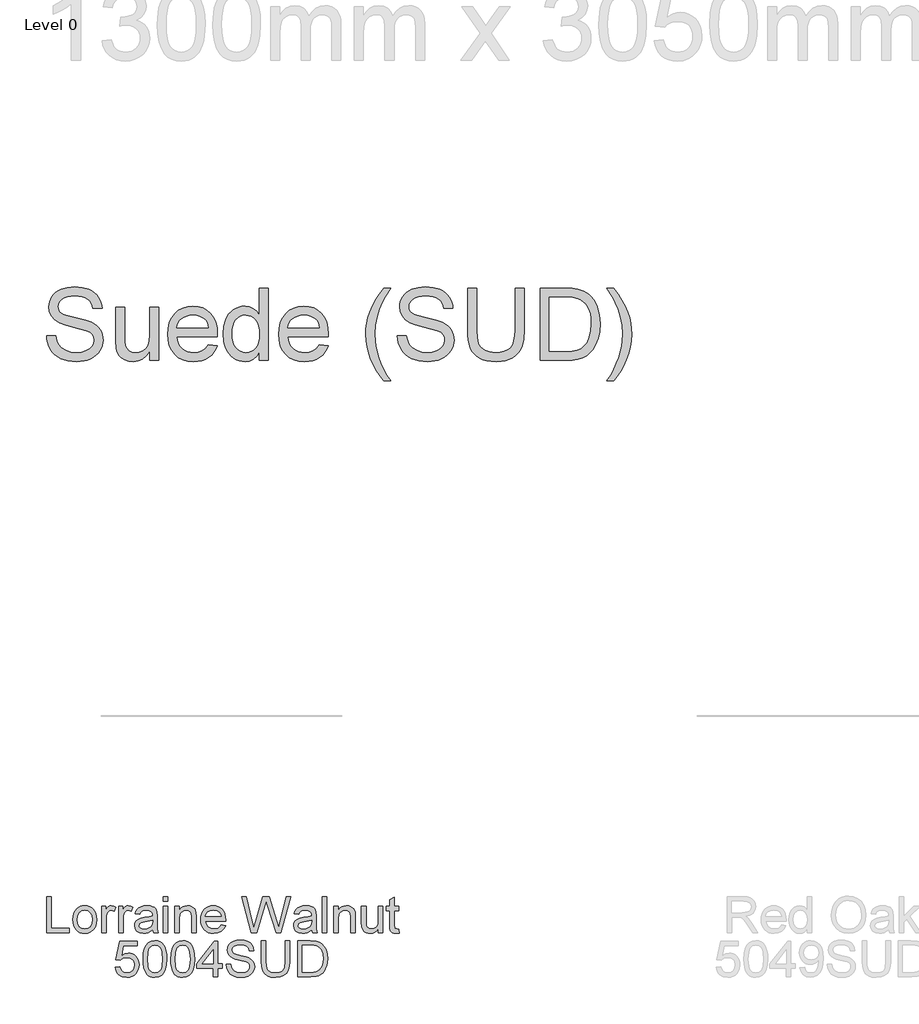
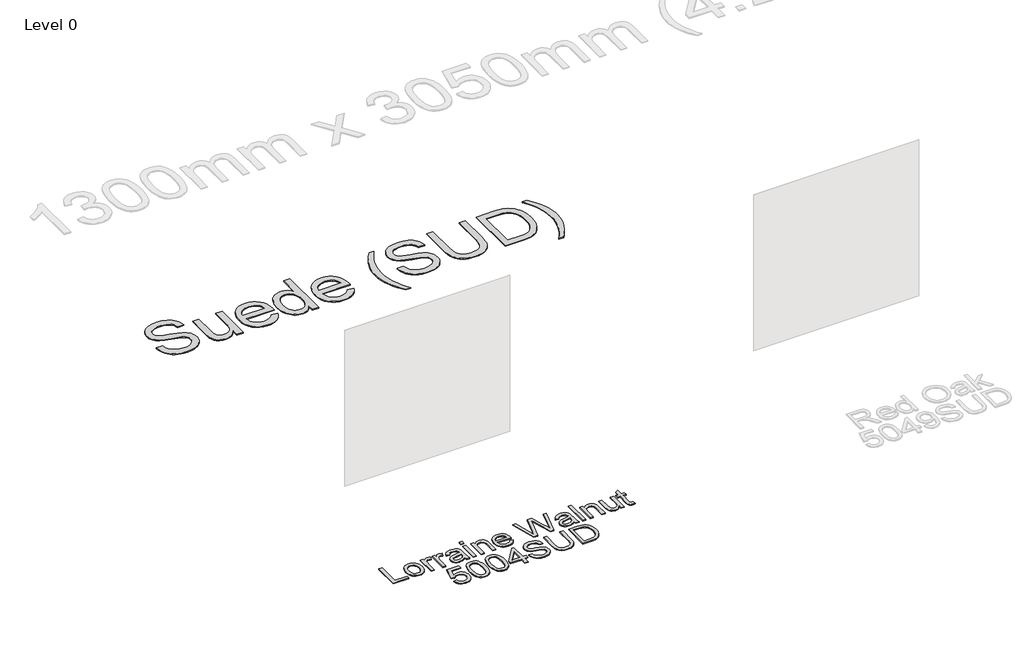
# One storey, part 13 of 43: 2 proxies.
"""IFC4 building model written with IfcOpenShell, lengths in millimetres."""

from ifc_helpers import new_model, si_unit, origin, origin_with_axes, place, context, project, spatial, polyline, outline, extrude, element, save

model = new_model("IFC4")

# Units and contexts
model_context = context("Model", 3, world=origin())
ifc_project = project(units=[si_unit("LENGTHUNIT", "METRE", prefix="MILLI")], contexts=[model_context])

# Site, building, storey
site = spatial("IfcSite", under=ifc_project)
building = spatial("IfcBuilding", under=site)
storey = spatial("IfcBuildingStorey", under=building, Name="Level 0", Elevation=0.0)

# Proxies
placement = place(None, origin())
element("IfcBuildingElementProxy", 1, Name="300mm Arial", ObjectType="300mm Arial", at=placement, inside=storey, context=model_context, shape_type="SweptSolid", body=[
    extrude(outline(polyline([(-10903.3504789, -7002.860494), (-10903.3504789, -6701.4915635), (-10865.6793626, -6701.4915635), (-10865.6793626, -6965.1893777), (-10714.9948973, -6965.1893777), (-10714.9948973, -7002.860494), (-10903.3504789, -7002.860494)])), origin_with_axes(), (0.0, 0.0, 1.0), 10.0),
    extrude(outline(polyline([(-10686.7415601, -6892.2015898), (-10684.7044136, -6863.5389839), (-10678.5929739, -6838.8403064), (-10668.4072412, -6818.1055575), (-10654.1472153, -6801.334737), (-10639.7906205, -6790.6155754), (-10623.9441035, -6782.9590314), (-10606.6076645, -6778.3651049), (-10587.7813034, -6776.8337961), (-10566.9982699, -6778.698498), (-10548.2063978, -6784.2926036), (-10531.4056869, -6793.6161129), (-10516.5961373, -6806.669026), (-10504.5089145, -6823.0098843), (-10495.875184, -6842.1972296), (-10490.6949456, -6864.2310619), (-10488.9681995, -6889.1113811), (-10492.0216201, -6927.1687735), (-10501.1818817, -6956.1394806), (-10516.1822701, -6977.8353213), (-10536.7560707, -6994.0681143), (-10561.1926322, -7004.1940662), (-10587.7813034, -7007.5693835), (-10608.8678395, -7005.7115794), (-10627.8344556, -7000.1381672), (-10644.6811517, -6990.8491468), (-10659.4079279, -6977.8445183), (-10671.366392, -6961.3450108), (-10679.908152, -6941.5713536), (-10685.0332081, -6918.5235466), (-10686.7415601, -6892.2015898)]), holes=[polyline([(-10649.0704438, -6892.1280134), (-10644.7110422, -6926.2214773), (-10631.6328372, -6950.5108861), (-10611.9511505, -6965.0514219), (-10587.7813034, -6969.8982672), (-10563.7218209, -6965.0238308), (-10544.0769224, -6950.4005215), (-10530.9987174, -6925.789216), (-10526.6393158, -6890.950791), (-10531.0263086, -6857.8506085), (-10544.187287, -6833.8922936), (-10563.8597767, -6819.3517577), (-10587.7813034, -6814.5049125), (-10611.9511505, -6819.3333636), (-10631.6328372, -6833.8187172), (-10644.7110422, -6858.0529436), (-10649.0704438, -6892.1280134)])]), origin_with_axes(), (0.0, 0.0, 1.0), 10.0),
    extrude(outline(polyline([(-10446.5881937, -7002.860494), (-10446.5881937, -6781.5426857), (-10413.6259669, -6781.5426857), (-10413.6259669, -6814.2841833), (-10401.4490728, -6795.3014723), (-10390.228672, -6784.1178596), (-10378.9714829, -6778.654812), (-10366.6842243, -6776.8337961), (-10347.9222425, -6779.7400639), (-10328.8659552, -6788.4588672), (-10341.4475194, -6822.2304343), (-10354.6912713, -6816.4362929), (-10367.9350231, -6814.5049125), (-10379.1830151, -6816.3627165), (-10389.2353906, -6821.9361288), (-10397.3563856, -6830.8020848), (-10402.8102362, -6842.5375205), (-10407.3903671, -6863.5803706), (-10408.9170773, -6886.5362071), (-10408.9170773, -7002.860494), (-10446.5881937, -7002.860494)])), origin_with_axes(), (0.0, 0.0, 1.0), 10.0),
    extrude(outline(polyline([(-10305.3215075, -7002.860494), (-10305.3215075, -6781.5426857), (-10272.3592807, -6781.5426857), (-10272.3592807, -6814.2841833), (-10260.1823867, -6795.3014723), (-10248.9619858, -6784.1178596), (-10237.7047968, -6778.654812), (-10225.4175381, -6776.8337961), (-10206.6555564, -6779.7400639), (-10187.599269, -6788.4588672), (-10200.1808333, -6822.2304343), (-10213.4245851, -6816.4362929), (-10226.6683369, -6814.5049125), (-10237.9163289, -6816.3627165), (-10247.9687045, -6821.9361288), (-10256.0896995, -6830.8020848), (-10261.5435501, -6842.5375205), (-10266.1236809, -6863.5803706), (-10267.6503912, -6886.5362071), (-10267.6503912, -7002.860494), (-10305.3215075, -7002.860494)])), origin_with_axes(), (0.0, 0.0, 1.0), 10.0),
    extrude(outline(polyline([(-10022.7881352, -6974.6071568), (-10040.7867618, -6990.0398064), (-10059.3188173, -7000.1381672), (-10078.807366, -7005.7115794), (-10099.6754722, -7007.5693835), (-10131.1569739, -7003.0996173), (-10154.3795249, -6989.6903186), (-10168.6993315, -6969.3280501), (-10173.4726004, -6943.9993748), (-10171.6699787, -6928.3827841), (-10166.2621133, -6914.2009331), (-10157.9203891, -6902.0608273), (-10147.3161906, -6892.5694718), (-10120.9390515, -6880.2086368), (-10088.3447067, -6874.5432541), (-10049.8274619, -6868.5835657), (-10023.0088644, -6861.5938078), (-10022.7881352, -6853.2060983), (-10025.3817033, -6836.3938912), (-10033.1624075, -6825.3942195), (-10050.5632258, -6817.2272392), (-10074.8066493, -6814.5049125), (-10097.247451, -6816.3167313), (-10112.919224, -6821.7521878), (-10123.606196, -6831.8045633), (-10131.0925946, -6847.4671392), (-10168.7637109, -6842.7582497), (-10162.2246084, -6822.156858), (-10152.4665385, -6805.9700502), (-10138.5789932, -6793.590821), (-10119.6514645, -6784.4121652), (-10096.50249, -6778.7283884), (-10069.950607, -6776.8337961), (-10044.4839759, -6778.5076592), (-10024.2964514, -6783.5292485), (-10009.0753338, -6791.0800264), (-9998.5079235, -6800.3414556), (-9991.4997715, -6811.7917827), (-9986.9564289, -6825.9092543), (-9985.1170189, -6858.8714811), (-9985.1170189, -6905.7396473), (-9983.2040325, -6971.1858542), (-9975.6992398, -7002.860494), (-10013.3703561, -7002.860494), (-10022.7881352, -6974.6071568)]), holes=[polyline([(-10022.7881352, -6899.2649241), (-10083.5622408, -6910.8164188), (-10115.9726446, -6916.9232599), (-10130.6511362, -6926.8560738), (-10135.8014841, -6941.3506244), (-10132.9963839, -6952.5526311), (-10124.5810833, -6961.7312869), (-10110.7395232, -6967.8565221), (-10091.6556447, -6969.8982672), (-10071.422135, -6967.64499), (-10053.54307, -6960.8851583), (-10039.0485194, -6950.9247533), (-10028.9685527, -6939.069756), (-10024.4987865, -6926.8560738), (-10023.0088644, -6909.933502), (-10022.7881352, -6899.2649241)])]), origin_with_axes(), (0.0, 0.0, 1.0), 10.0),
    extrude(outline(polyline([(-9933.319234, -6739.1626798), (-9933.319234, -6701.4915635), (-9895.6481177, -6701.4915635), (-9895.6481177, -6739.1626798), (-9933.319234, -6739.1626798)])), origin_with_axes(), (0.0, 0.0, 1.0), 10.0),
    extrude(outline(polyline([(-9933.319234, -7002.860494), (-9933.319234, -6781.5426857), (-9895.6481177, -6781.5426857), (-9895.6481177, -7002.860494), (-9933.319234, -7002.860494)])), origin_with_axes(), (0.0, 0.0, 1.0), 10.0),
    extrude(outline(polyline([(-9839.1414432, -7002.860494), (-9839.1414432, -6781.5426857), (-9801.4703269, -6781.5426857), (-9801.4703269, -6812.4447733), (-9788.3829249, -6796.8649708), (-9772.6651667, -6785.7365404), (-9754.3170522, -6779.0594822), (-9733.3385814, -6776.8337961), (-9714.7697377, -6778.6272209), (-9697.7643925, -6784.0074951), (-9683.5825416, -6792.303234), (-9673.4841808, -6802.8430532), (-9662.1902035, -6830.5445674), (-9660.2036408, -6866.964885), (-9660.2036408, -7002.860494), (-9697.8747571, -7002.860494), (-9697.8747571, -6872.0416565), (-9702.2157646, -6838.7115477), (-9708.2214382, -6828.7879309), (-9717.5564438, -6821.0900002), (-9729.5218057, -6816.1511844), (-9743.4185481, -6814.5049125), (-9765.4822707, -6818.2021265), (-9784.2902377, -6829.2937687), (-9791.8065267, -6838.3482643), (-9797.1753046, -6850.7228949), (-9801.4703269, -6885.4325611), (-9801.4703269, -7002.860494), (-9839.1414432, -7002.860494)])), origin_with_axes(), (0.0, 0.0, 1.0), 10.0),
    extrude(outline(polyline([(-9453.4539595, -6936.9360404), (-9416.5186072, -6941.64493), (-9429.8267383, -6969.4752029), (-9451.0627265, -6990.2789297), (-9479.7483251, -7003.2467701), (-9515.4052875, -7007.5693835), (-9538.7795897, -7005.7046817), (-9559.6063092, -7000.1105761), (-9577.8854458, -6990.7870668), (-9593.6169996, -6977.7341537), (-9606.2675417, -6961.3151204), (-9615.3036432, -6941.8932503), (-9620.7253042, -6919.4685435), (-9622.5325245, -6894.0409998), (-9620.7069101, -6867.7512327), (-9615.2300668, -6844.5792656), (-9606.1019948, -6824.5250983), (-9593.322694, -6807.5887309), (-9577.6325269, -6794.133447), (-9559.7718561, -6784.5225298), (-9539.7406814, -6778.7559796), (-9517.539003, -6776.8337961), (-9496.0523952, -6778.751381), (-9476.6213281, -6784.5041357), (-9459.2458016, -6794.0920602), (-9443.9258158, -6807.5151545), (-9431.4201272, -6824.4147337), (-9422.4874925, -6844.4321128), (-9417.1279117, -6867.5672917), (-9415.3413848, -6893.8202706), (-9415.562114, -6903.9738137), (-9584.8614081, -6903.9738137), (-9578.3406998, -6932.1719686), (-9563.1931586, -6952.902119), (-9541.3317711, -6965.6492302), (-9514.6695235, -6969.8982672), (-9494.6199547, -6967.9300985), (-9477.7341712, -6962.0255925), (-9464.0121727, -6951.8168672), (-9453.4539595, -6936.9360404)]), holes=[polyline([(-9584.8614081, -6866.3026974), (-9453.0125011, -6866.3026974), (-9458.1076667, -6846.4002814), (-9468.0956629, -6832.1632482), (-9490.058218, -6818.9194964), (-9517.6861558, -6814.5049125), (-9543.0792105, -6818.0273826), (-9564.0760754, -6828.5947929), (-9578.6717936, -6845.0667092), (-9584.8614081, -6866.3026974)])]), origin_with_axes(), (0.0, 0.0, 1.0), 10.0),
    extrude(outline(polyline([(-9201.30764, -7002.860494), (-9283.4924777, -6701.4915635), (-9244.644139, -6701.4915635), (-9196.9666324, -6899.5592297), (-9182.2513526, -6960.7012173), (-9166.5060032, -6906.622564), (-9106.7619672, -6701.4915635), (-9050.7703276, -6701.4915635), (-9007.3602521, -6850.189466), (-8988.7638173, -6905.3717653), (-8975.0602129, -6960.7012173), (-8960.7863915, -6901.3250633), (-8912.6674266, -6701.4915635), (-8873.8190879, -6701.4915635), (-8956.077502, -7002.860494), (-8996.3237923, -7002.860494), (-9068.5758161, -6770.359073), (-9078.6557828, -6737.9118811), (-9089.9865482, -6776.9809489), (-9155.8374254, -7002.860494), (-9201.30764, -7002.860494)])), origin_with_axes(), (0.0, 0.0, 1.0), 10.0),
    extrude(outline(polyline([(-8699.590175, -6974.6071568), (-8717.5888016, -6990.0398064), (-8736.1208571, -7000.1381672), (-8755.6094058, -7005.7115794), (-8776.4775119, -7007.5693835), (-8807.9590137, -7003.0996173), (-8831.1815646, -6989.6903186), (-8845.5013713, -6969.3280501), (-8850.2746402, -6943.9993748), (-8848.4720184, -6928.3827841), (-8843.0641531, -6914.2009331), (-8834.7224288, -6902.0608273), (-8824.1182303, -6892.5694718), (-8797.7410913, -6880.2086368), (-8765.1467465, -6874.5432541), (-8726.6295016, -6868.5835657), (-8699.8109042, -6861.5938078), (-8699.590175, -6853.2060983), (-8702.183743, -6836.3938912), (-8709.9644472, -6825.3942195), (-8727.3652656, -6817.2272392), (-8751.6086891, -6814.5049125), (-8774.0494908, -6816.3167313), (-8789.7212638, -6821.7521878), (-8800.4082357, -6831.8045633), (-8807.8946343, -6847.4671392), (-8845.5657506, -6842.7582497), (-8839.0266482, -6822.156858), (-8829.2685783, -6805.9700502), (-8815.3810329, -6793.590821), (-8796.4535043, -6784.4121652), (-8773.3045297, -6778.7283884), (-8746.7526467, -6776.8337961), (-8721.2860156, -6778.5076592), (-8701.0984911, -6783.5292485), (-8685.8773736, -6791.0800264), (-8675.3099633, -6800.3414556), (-8668.3018113, -6811.7917827), (-8663.7584686, -6825.9092543), (-8661.9190586, -6858.8714811), (-8661.9190586, -6905.7396473), (-8660.0060723, -6971.1858542), (-8652.5012796, -7002.860494), (-8690.1723959, -7002.860494), (-8699.590175, -6974.6071568)]), holes=[polyline([(-8699.590175, -6899.2649241), (-8760.3642806, -6910.8164188), (-8792.7746843, -6916.9232599), (-8807.4531759, -6926.8560738), (-8812.6035239, -6941.3506244), (-8809.7984237, -6952.5526311), (-8801.383123, -6961.7312869), (-8787.541563, -6967.8565221), (-8768.4576845, -6969.8982672), (-8748.2241747, -6967.64499), (-8730.3451098, -6960.8851583), (-8715.8505591, -6950.9247533), (-8705.7705925, -6939.069756), (-8701.3008262, -6926.8560738), (-8699.8109042, -6909.933502), (-8699.590175, -6899.2649241)])]), origin_with_axes(), (0.0, 0.0, 1.0), 10.0),
    extrude(outline(polyline([(-8610.1212737, -7002.860494), (-8610.1212737, -6701.4915635), (-8572.4501574, -6701.4915635), (-8572.4501574, -7002.860494), (-8610.1212737, -7002.860494)])), origin_with_axes(), (0.0, 0.0, 1.0), 10.0),
    extrude(outline(polyline([(-8515.943483, -7002.860494), (-8515.943483, -6781.5426857), (-8478.2723667, -6781.5426857), (-8478.2723667, -6812.4447733), (-8465.1849647, -6796.8649708), (-8449.4672064, -6785.7365404), (-8431.1190919, -6779.0594822), (-8410.1406211, -6776.8337961), (-8391.5717774, -6778.6272209), (-8374.5664322, -6784.0074951), (-8360.3845813, -6792.303234), (-8350.2862205, -6802.8430532), (-8338.9922433, -6830.5445674), (-8337.0056805, -6866.964885), (-8337.0056805, -7002.860494), (-8374.6767968, -7002.860494), (-8374.6767968, -6872.0416565), (-8379.0178044, -6838.7115477), (-8385.0234779, -6828.7879309), (-8394.3584836, -6821.0900002), (-8406.3238454, -6816.1511844), (-8420.2205878, -6814.5049125), (-8442.2843105, -6818.2021265), (-8461.0922775, -6829.2937687), (-8468.6085665, -6838.3482643), (-8473.9773444, -6850.7228949), (-8478.2723667, -6885.4325611), (-8478.2723667, -7002.860494), (-8515.943483, -7002.860494)])), origin_with_axes(), (0.0, 0.0, 1.0), 10.0),
    extrude(outline(polyline([(-8143.9412094, -7002.860494), (-8143.9412094, -6964.8214957), (-8157.5712374, -6983.5236966), (-8173.4453455, -6996.8824116), (-8191.5635337, -7004.8976405), (-8211.9258021, -7007.5693835), (-8230.2739167, -7005.6931853), (-8247.3528383, -7000.0645908), (-8261.681842, -6991.6033049), (-8271.7802028, -6981.2290327), (-8283.0006036, -6953.4907302), (-8285.2078956, -6918.4683643), (-8285.2078956, -6781.5426857), (-8247.5367793, -6781.5426857), (-8247.5367793, -6900.7364521), (-8245.2559109, -6939.1433324), (-8239.7652721, -6951.9548229), (-8230.3566901, -6961.6944987), (-8217.6555642, -6967.8473251), (-8202.2872939, -6969.8982672), (-8186.0361067, -6967.8013398), (-8170.8333833, -6961.5105577), (-8158.2978043, -6951.605335), (-8150.0480506, -6938.6650858), (-8145.4679197, -6920.9423707), (-8143.9412094, -6896.6897502), (-8143.9412094, -6781.5426857), (-8106.2700931, -6781.5426857), (-8106.2700931, -7002.860494), (-8143.9412094, -7002.860494)])), origin_with_axes(), (0.0, 0.0, 1.0), 10.0),
    extrude(outline(polyline([(-7974.4211861, -6971.4433716), (-7969.7122965, -7003.96414), (-7997.8920574, -7007.5693835), (-8015.9734574, -7006.005885), (-8029.4563325, -7001.3153896), (-8038.9844762, -6994.0865084), (-8045.2016819, -6984.9078526), (-8048.6229845, -6969.1441091), (-8049.7634187, -6942.1599648), (-8049.7634187, -6819.213802), (-8078.0167559, -6819.213802), (-8078.0167559, -6781.5426857), (-8049.7634187, -6781.5426857), (-8049.7634187, -6727.758338), (-8012.0923024, -6705.6118419), (-8012.0923024, -6781.5426857), (-7974.4211861, -6781.5426857), (-7974.4211861, -6819.213802), (-8012.0923024, -6819.213802), (-8012.0923024, -6941.0563188), (-8010.1057396, -6960.4804881), (-8003.6678047, -6967.3598814), (-7990.828723, -6969.8982672), (-7974.4211861, -6971.4433716)])), origin_with_axes(), (0.0, 0.0, 1.0), 10.0),
    extrude(outline(polyline([(-10333.5748447, -7288.7338254), (-10295.9037284, -7284.0249358), (-10288.9875469, -7306.6404815), (-10276.9210175, -7322.8364863), (-10259.7593224, -7332.5761621), (-10237.557644, -7335.8227207), (-10210.5551055, -7331.3069693), (-10190.3215958, -7317.7597148), (-10177.6848493, -7296.7444558), (-10173.4726004, -7269.8246908), (-10177.4181348, -7244.4776213), (-10189.254738, -7225.0902402), (-10209.0743805, -7212.7845875), (-10236.9690328, -7208.6827032), (-10255.2435709, -7210.3197781), (-10270.0416242, -7215.2310027), (-10291.1948389, -7232.2271509), (-10328.8659552, -7227.5182614), (-10295.9037284, -7072.1249066), (-10149.9281527, -7072.1249066), (-10149.9281527, -7109.7960229), (-10265.4430992, -7109.7960229), (-10281.5563306, -7192.790201), (-10254.6457627, -7176.4562404), (-10226.4476077, -7171.0115869), (-10208.1017925, -7172.6992456), (-10191.2504978, -7177.7622215), (-10175.8937238, -7186.2005148), (-10162.0314704, -7198.0141254), (-10150.5558514, -7212.4810848), (-10142.3589807, -7228.8794248), (-10137.4408583, -7247.2091452), (-10135.8014841, -7267.470246), (-10141.7059901, -7305.1413624), (-10149.0866227, -7321.9351754), (-10159.4195082, -7337.3678251), (-10175.0728871, -7353.1729553), (-10193.3382282, -7364.4623341), (-10214.2155314, -7371.2359613), (-10237.7047968, -7373.4938371), (-10274.7045285, -7367.6904986), (-10290.3831992, -7360.4363255), (-10304.1810733, -7350.2804832), (-10315.6612908, -7337.7288093), (-10324.3869919, -7323.2871418), (-10333.5748447, -7288.7338254)])), origin_with_axes(), (0.0, 0.0, 1.0), 10.0),
    extrude(outline(polyline([(-10102.8392574, -7220.5285035), (-10100.0709453, -7172.2899768), (-10091.7660093, -7133.8187172), (-10078.0072227, -7104.5261133), (-10058.8773589, -7083.8235541), (-10034.2384623, -7071.5179013), (-10003.9525771, -7067.4160171), (-9980.7392232, -7069.8440382), (-9959.9538904, -7077.1281017), (-9942.5714662, -7088.983099), (-9929.5668376, -7105.1239216), (-9919.7443884, -7125.4126136), (-9911.9085019, -7149.7112194), (-9906.776548, -7180.5673217), (-9905.0658967, -7220.5285035), (-9907.8066176, -7268.4911186), (-9916.0287802, -7306.8704077), (-9929.7047934, -7336.1906027), (-9948.807066, -7356.9759355), (-9973.5011449, -7369.3643617), (-10003.9525771, -7373.4938371), (-10024.7011216, -7371.7004123), (-10043.0952213, -7366.3201381), (-10059.1348763, -7357.3530145), (-10072.8200866, -7344.7990414), (-10085.9534738, -7322.1053209), (-10095.3344647, -7293.828991), (-10100.9630592, -7259.9700519), (-10102.8392574, -7220.5285035)]), holes=[polyline([(-10065.1681411, -7220.4549271), (-10060.7535571, -7279.7115194), (-10055.2353272, -7299.9795181), (-10047.5098053, -7314.0073184), (-10027.7913303, -7330.3688702), (-10003.9525771, -7335.8227207), (-9980.1138238, -7330.3504761), (-9960.3953488, -7313.933742), (-9952.6698269, -7299.8829491), (-9947.151597, -7279.6195489), (-9942.7370131, -7220.4549271), (-9947.0044442, -7162.5319069), (-9952.3387331, -7142.3305869), (-9959.8067376, -7127.9693935), (-9979.4884244, -7110.8076984), (-10004.3940354, -7105.0871334), (-10027.9752713, -7110.1271167), (-10046.9211941, -7125.2470667), (-10054.9042334, -7140.8820515), (-10060.6064043, -7161.9616898), (-10065.1681411, -7220.4549271)])]), origin_with_axes(), (0.0, 0.0, 1.0), 10.0),
    extrude(outline(polyline([(-9872.10367, -7220.5285035), (-9869.335358, -7172.2899768), (-9861.0304219, -7133.8187172), (-9847.2716353, -7104.5261133), (-9828.1417716, -7083.8235541), (-9803.5028749, -7071.5179013), (-9773.2169897, -7067.4160171), (-9750.0036358, -7069.8440382), (-9729.2183031, -7077.1281017), (-9711.8358788, -7088.983099), (-9698.8312503, -7105.1239216), (-9689.008801, -7125.4126136), (-9681.1729145, -7149.7112194), (-9676.0409607, -7180.5673217), (-9674.3303094, -7220.5285035), (-9677.0710302, -7268.4911186), (-9685.2931928, -7306.8704077), (-9698.969206, -7336.1906027), (-9718.0714786, -7356.9759355), (-9742.7655575, -7369.3643617), (-9773.2169897, -7373.4938371), (-9793.9655342, -7371.7004123), (-9812.359634, -7366.3201381), (-9828.399289, -7357.3530145), (-9842.0844992, -7344.7990414), (-9855.2178864, -7322.1053209), (-9864.5988773, -7293.828991), (-9870.2274718, -7259.9700519), (-9872.10367, -7220.5285035)]), holes=[polyline([(-9834.4325537, -7220.4549271), (-9830.0179697, -7279.7115194), (-9824.4997398, -7299.9795181), (-9816.7742179, -7314.0073184), (-9797.055743, -7330.3688702), (-9773.2169897, -7335.8227207), (-9749.3782364, -7330.3504761), (-9729.6597614, -7313.933742), (-9721.9342396, -7299.8829491), (-9716.4160096, -7279.6195489), (-9712.0014257, -7220.4549271), (-9716.2688568, -7162.5319069), (-9721.6031458, -7142.3305869), (-9729.0711503, -7127.9693935), (-9748.752837, -7110.8076984), (-9773.6584481, -7105.0871334), (-9797.239684, -7110.1271167), (-9816.1856067, -7125.2470667), (-9824.168646, -7140.8820515), (-9829.8708169, -7161.9616898), (-9834.4325537, -7220.4549271)])]), origin_with_axes(), (0.0, 0.0, 1.0), 10.0),
    extrude(outline(polyline([(-9518.9369546, -7368.7849475), (-9518.9369546, -7298.1516044), (-9655.4947512, -7298.1516044), (-9655.4947512, -7260.4804881), (-9509.5191755, -7072.1249066), (-9481.2658383, -7072.1249066), (-9481.2658383, -7260.4804881), (-9443.594722, -7260.4804881), (-9443.594722, -7298.1516044), (-9481.2658383, -7298.1516044), (-9481.2658383, -7368.7849475), (-9518.9369546, -7368.7849475)]), holes=[polyline([(-9518.9369546, -7260.4804881), (-9518.9369546, -7144.0826249), (-9609.1416198, -7260.4804881), (-9518.9369546, -7260.4804881)])]), origin_with_axes(), (0.0, 0.0, 1.0), 10.0),
    extrude(outline(polyline([(-9410.6324952, -7265.1893777), (-9372.9613789, -7265.1893777), (-9368.6387655, -7286.0942721), (-9360.8212731, -7302.8972822), (-9348.6259849, -7316.2330045), (-9331.1699843, -7326.7360355), (-9309.8328286, -7333.5510494), (-9285.9940753, -7335.8227207), (-9265.0064074, -7334.1028724), (-9246.6307018, -7328.9433274), (-9231.740678, -7320.7763471), (-9221.2100559, -7310.0341929), (-9214.9468649, -7297.700949), (-9212.8591346, -7284.7606998), (-9214.4226331, -7272.1515444), (-9219.1131285, -7261.2530403), (-9228.6412722, -7251.9548229), (-9244.7177154, -7244.1465276), (-9299.5689209, -7229.7623415), (-9335.5753712, -7220.2433949), (-9358.6139811, -7211.1843008), (-9377.3667658, -7198.510766), (-9390.6565029, -7183.1516928), (-9398.5751628, -7165.4381747), (-9401.2147162, -7145.7013056), (-9397.9497634, -7123.637583), (-9388.1549053, -7103.0637824), (-9372.0876592, -7085.6261758), (-9350.0055424, -7072.9710352), (-9323.4996447, -7065.2731044), (-9294.1610556, -7062.7071275), (-9262.3760512, -7065.3926661), (-9234.5641723, -7073.4492818), (-9211.7187004, -7086.7114277), (-9194.8329169, -7105.013557), (-9184.1459449, -7127.2152354), (-9179.8969079, -7152.1760288), (-9217.5680242, -7152.1760288), (-9224.4842057, -7129.6984389), (-9238.9051799, -7113.4748429), (-9261.4379521, -7103.6523936), (-9292.6895276, -7100.3782438), (-9324.6768671, -7103.6156054), (-9346.6210281, -7113.3276901), (-9359.3129569, -7127.6199056), (-9363.5435998, -7144.5976597), (-9360.5453616, -7159.0738162), (-9351.5506468, -7170.7172813), (-9330.2870675, -7181.1283418), (-9290.0407772, -7191.7601314), (-9248.5069, -7201.8584922), (-9223.3805597, -7210.669266), (-9201.9054482, -7224.3360821), (-9186.923454, -7241.2034716), (-9178.1218772, -7261.0874934), (-9175.1880183, -7283.8042066), (-9178.5633356, -7307.0267576), (-9188.6892875, -7328.869751), (-9205.1520068, -7347.668521), (-9227.5376262, -7361.7584014), (-9254.4573912, -7370.5599781), (-9284.5225473, -7373.4938371), (-9321.4303085, -7370.3300519), (-9351.8081642, -7360.8386964), (-9376.0056024, -7344.9829824), (-9394.372111, -7322.7261217), (-9406.162729, -7295.6132187), (-9410.6324952, -7265.1893777)])), origin_with_axes(), (0.0, 0.0, 1.0), 10.0),
    extrude(outline(polyline([(-8920.9079833, -7067.4160171), (-8883.2368669, -7067.4160171), (-8883.2368669, -7241.277048), (-8885.7936468, -7281.9923878), (-8893.4639864, -7313.3451308), (-8907.7929901, -7337.533372), (-8930.3257623, -7356.7552063), (-8961.1174853, -7369.3091794), (-9000.2233414, -7373.4938371), (-9038.4738719, -7369.8518053), (-9069.0540627, -7358.92571), (-9091.973111, -7341.0926303), (-9107.2402138, -7316.7296452), (-9115.8210613, -7284.052527), (-9118.6813439, -7241.277048), (-9118.6813439, -7067.4160171), (-9081.0102276, -7067.4160171), (-9081.0102276, -7239.9526728), (-9079.1524235, -7273.8070134), (-9073.5790113, -7297.3790523), (-9063.4806505, -7313.7038158), (-9048.0480008, -7325.8163305), (-9027.9248556, -7333.3211232), (-9003.7550086, -7335.8227207), (-8965.4400988, -7330.8747079), (-8951.0972995, -7324.6896919), (-8939.9642706, -7316.0306694), (-8931.6271449, -7303.8537754), (-8925.6720551, -7287.1151446), (-8920.9079833, -7239.9526728), (-8920.9079833, -7067.4160171)])), origin_with_axes(), (0.0, 0.0, 1.0), 10.0),
    extrude(outline(polyline([(-8817.3124134, -7368.7849475), (-8817.3124134, -7067.4160171), (-8713.3489616, -7067.4160171), (-8659.5646139, -7071.7570246), (-8635.5419196, -7080.12634), (-8615.2716217, -7093.3149095), (-8594.4311066, -7116.270746), (-8579.5870681, -7144.8183889), (-8570.7027179, -7178.406015), (-8567.7412679, -7216.4818015), (-8569.7462248, -7248.8278259), (-8575.7610954, -7277.2926953), (-8584.9213571, -7301.5269217), (-8596.3624871, -7321.1810173), (-8609.5326625, -7336.6964405), (-8623.8800603, -7348.5146496), (-8640.3519767, -7357.2794381), (-8659.8957077, -7363.6345996), (-8708.3457664, -7368.7849475), (-8817.3124134, -7368.7849475)]), holes=[polyline([(-8779.6412971, -7331.1138312), (-8712.9810796, -7331.1138312), (-8685.408324, -7329.7526678), (-8664.4942326, -7325.6691777), (-8648.712095, -7319.1024841), (-8636.535201, -7310.2917103), (-8623.447799, -7293.9853408), (-8613.6161527, -7272.8781114), (-8607.4633263, -7246.8780514), (-8605.4123842, -7215.8931903), (-8609.431495, -7174.8375597), (-8621.4888274, -7144.5240833), (-8639.303513, -7123.7019623), (-8660.5946835, -7111.1203981), (-8682.262933, -7106.5954496), (-8714.0111492, -7105.0871334), (-8779.6412971, -7105.0871334), (-8779.6412971, -7331.1138312)])]), origin_with_axes(), (0.0, 0.0, 1.0), 10.0),
])
element("IfcBuildingElementProxy", 2, Name="600mm Arial", ObjectType="600mm Arial", at=placement, inside=storey, context=model_context, shape_type="SweptSolid", body=[
    extrude(outline(polyline([(-10905.7165225, -2032.6809076), (-10830.3742899, -2032.6809076), (-10821.729063, -2074.4906964), (-10806.0940782, -2108.0967167), (-10781.7035019, -2134.7681613), (-10746.7915006, -2155.7742232), (-10704.1171891, -2169.4042512), (-10656.4396825, -2173.9475938), (-10614.4643469, -2170.5078971), (-10577.7129356, -2160.1888072), (-10547.9328881, -2143.8548466), (-10526.8716438, -2122.3705381), (-10514.3452619, -2097.7040503), (-10510.1698013, -2071.8235519), (-10513.2967982, -2046.6052412), (-10522.6777891, -2024.8082329), (-10541.7340764, -2006.2117981), (-10573.8869628, -1990.5952074), (-10683.5893738, -1961.8268354), (-10755.6022743, -1942.7889421), (-10801.6794942, -1924.6707539), (-10839.1850636, -1899.3236844), (-10865.7645378, -1868.6055378), (-10881.6018577, -1833.1785017), (-10886.8809643, -1793.7047636), (-10885.248488, -1771.2685604), (-10880.3510589, -1749.5773183), (-10872.1886771, -1728.6310372), (-10860.7613427, -1708.4297171), (-10846.1978142, -1689.796494), (-10828.6268504, -1673.554504), (-10808.0484513, -1659.7037468), (-10784.4626169, -1648.2442227), (-10731.4508214, -1632.8483612), (-10672.7736431, -1627.7164074), (-10609.2036344, -1633.0874845), (-10553.5798767, -1649.2007159), (-10529.2444827, -1661.202866), (-10507.8889329, -1675.7250077), (-10489.5132272, -1692.7671412), (-10474.1173657, -1712.3292662), (-10461.82091, -1733.8411659), (-10452.7434218, -1756.7326231), (-10446.884901, -1781.0036377), (-10444.2453477, -1806.6542098), (-10519.5875803, -1806.6542098), (-10524.6275637, -1782.6131214), (-10533.4199434, -1761.69903), (-10545.9647194, -1743.9119355), (-10562.2618918, -1729.251838), (-10582.6149632, -1717.7923139), (-10607.3274362, -1709.6069395), (-10636.3993109, -1704.6957148), (-10669.8305872, -1703.05864), (-10704.3287213, -1704.6773207), (-10733.8052661, -1709.5333631), (-10758.2602218, -1717.626767), (-10777.6935881, -1728.9575324), (-10792.5008385, -1742.5783633), (-10803.0774458, -1757.5419635), (-10809.4234102, -1773.8483329), (-10811.5387317, -1791.4974716), (-10810.0396126, -1806.681801), (-10805.5422552, -1820.4497846), (-10798.0466595, -1832.8014226), (-10787.5528256, -1843.7367149), (-10771.034924, -1854.0925931), (-10745.025667, -1864.5588358), (-10664.5330864, -1885.8224152), (-10581.4653319, -1906.0191367), (-10531.2126514, -1923.6406843), (-10488.2624284, -1950.9743165), (-10471.6571549, -1967.0415627), (-10458.2984399, -1984.7090955), (-10448.0299337, -2003.8849445), (-10440.6952865, -2024.4771392), (-10434.8275686, -2069.9105656), (-10436.5152273, -2093.4780059), (-10441.5782033, -2116.3556674), (-10450.0164965, -2138.5435503), (-10461.8301071, -2160.0416544), (-10476.8121013, -2180.0176467), (-10494.7555457, -2197.6391943), (-10515.66044, -2212.9062971), (-10539.5267845, -2225.8189551), (-10565.6602017, -2236.0874613), (-10593.3663145, -2243.4221086), (-10653.4966266, -2249.2898264), (-10692.0368641, -2247.7079338), (-10727.3121489, -2242.9622561), (-10759.322481, -2235.0527932), (-10788.0678604, -2223.9795451), (-10813.7230311, -2209.7241178), (-10836.4627369, -2192.2681172), (-10856.2869779, -2171.6115431), (-10873.1957541, -2147.7543957), (-10886.816585, -2121.4692272), (-10896.77699, -2093.5285896), (-10903.0769692, -2063.9324831), (-10905.7165225, -2032.6809076)])), origin_with_axes(), (0.0, 0.0, 1.0), 10.0),
    extrude(outline(polyline([(-10048.6986265, -2239.8720473), (-10048.6986265, -2163.7940507), (-10075.9586823, -2201.1984526), (-10107.7068985, -2227.9158825), (-10143.9432751, -2243.9463404), (-10184.6678119, -2249.2898264), (-10221.3640409, -2245.5374301), (-10255.5218842, -2234.280241), (-10284.1798916, -2217.3576692), (-10304.3766132, -2196.6091247), (-10317.9698529, -2171.409208), (-10326.8174149, -2141.1325198), (-10331.2319988, -2071.0877879), (-10331.2319988, -1797.2364307), (-10255.8897662, -1797.2364307), (-10255.8897662, -2035.6239636), (-10254.749332, -2083.3014702), (-10251.3280295, -2112.4377242), (-10240.3467519, -2138.0607052), (-10221.5295878, -2157.5400568), (-10196.1273361, -2169.8457095), (-10165.3907954, -2173.9475938), (-10132.8884211, -2169.753739), (-10102.4829742, -2157.1721748), (-10077.4118162, -2137.3617294), (-10060.9123087, -2111.481231), (-10051.7520471, -2076.0358008), (-10048.6986265, -2027.5305597), (-10048.6986265, -1797.2364307), (-9973.3563939, -1797.2364307), (-9973.3563939, -2239.8720473), (-10048.6986265, -2239.8720473)])), origin_with_axes(), (0.0, 0.0, 1.0), 10.0),
    extrude(outline(polyline([(-9559.8570313, -2108.0231403), (-9485.9863267, -2117.4409193), (-9497.3124936, -2147.0278288), (-9512.602589, -2173.1014652), (-9531.856613, -2195.6618286), (-9555.0745654, -2214.7089189), (-9582.017323, -2229.8380659), (-9612.4457625, -2240.6445995), (-9646.359884, -2247.1285197), (-9683.7596873, -2249.2898264), (-9730.5082918, -2245.5604227), (-9772.1617307, -2234.3722115), (-9808.720004, -2215.7251929), (-9840.1831116, -2189.6193668), (-9865.4841959, -2156.7813002), (-9883.5563989, -2117.93756), (-9894.3997207, -2073.0881463), (-9898.0141613, -2022.233059), (-9894.3629325, -1969.6535248), (-9883.4092461, -1923.3095905), (-9865.1531021, -1883.201256), (-9839.5945004, -1849.3285212), (-9808.2141663, -1822.4179533), (-9772.4928245, -1803.1961191), (-9732.4304753, -1791.6630185), (-9688.0271184, -1787.8186517), (-9645.0539029, -1791.6538215), (-9606.1917686, -1803.1593309), (-9571.4407156, -1822.3351799), (-9540.800744, -1849.1813685), (-9515.7893668, -1882.9805268), (-9497.9240974, -1923.0152849), (-9487.2049358, -1969.2856428), (-9483.6318819, -2021.7916006), (-9484.0733403, -2042.0986867), (-9822.6719287, -2042.0986867), (-9818.3079285, -2072.1638428), (-9809.6305119, -2098.4949966), (-9796.639679, -2121.0921481), (-9779.3354296, -2139.9552974), (-9758.6742571, -2154.8269271), (-9735.6126545, -2165.4495197), (-9710.1506219, -2171.8230753), (-9682.2881593, -2173.9475938), (-9642.1890218, -2170.0112564), (-9608.4174547, -2158.2022444), (-9580.9734578, -2137.7847937), (-9559.8570313, -2108.0231403)]), holes=[polyline([(-9822.6719287, -1966.7564541), (-9558.9741145, -1966.7564541), (-9569.1644458, -1926.9516222), (-9577.9292343, -1911.2982433), (-9589.1404381, -1898.4775558), (-9609.6866476, -1883.026512), (-9633.0655484, -1871.9900522), (-9659.2771405, -1865.3681762), (-9688.321424, -1863.1608843), (-9714.8135262, -1864.9221193), (-9739.1075335, -1870.2058245), (-9761.2034458, -1879.0119997), (-9781.1012632, -1891.3406451), (-9797.7985073, -1906.6215435), (-9810.2926995, -1924.2844778), (-9818.58384, -1944.329448), (-9822.6719287, -1966.7564541)])]), origin_with_axes(), (0.0, 0.0, 1.0), 10.0),
    extrude(outline(polyline([(-9135.1740561, -2239.8720473), (-9135.1740561, -2168.7972459), (-9157.7160253, -2204.0127498), (-9185.0220664, -2229.1666813), (-9217.0921794, -2244.2590401), (-9253.9263641, -2249.2898264), (-9278.795187, -2247.4688105), (-9302.6339403, -2242.0057629), (-9325.442624, -2232.9006835), (-9347.2212381, -2220.1535724), (-9367.2892009, -2204.1461071), (-9384.9659308, -2185.2599651), (-9400.2514277, -2163.4951466), (-9413.1456916, -2138.8516515), (-9423.3820082, -2111.7985292), (-9430.6936628, -2082.8048295), (-9436.5429865, -2018.9956974), (-9431.1535153, -1955.9775117), (-9414.9851016, -1899.066167), (-9402.8633899, -1873.7099005), (-9388.0561396, -1851.499025), (-9370.5633507, -1832.4335406), (-9350.3850233, -1816.5134473), (-9328.2339286, -1803.9594742), (-9304.8228382, -1794.9923506), (-9280.1517519, -1789.6120764), (-9254.2206697, -1787.8186517), (-9217.3588938, -1792.9506055), (-9184.764549, -1808.346467), (-9157.1366112, -1831.946097), (-9135.1740561, -1861.6893563), (-9135.1740561, -1637.1341864), (-9059.8318235, -1637.1341864), (-9059.8318235, -2239.8720473), (-9135.1740561, -2239.8720473)]), holes=[polyline([(-9361.2007539, -2018.7013918), (-9359.0762354, -2055.2366725), (-9352.7026798, -2086.8515314), (-9342.0800872, -2113.5459687), (-9327.2084576, -2135.3199843), (-9309.4489542, -2152.2195635), (-9290.1627407, -2164.2906914), (-9269.3498168, -2171.5333682), (-9247.0101826, -2173.9475938), (-9224.5647824, -2171.6437328), (-9203.8760187, -2164.7321498), (-9184.9438915, -2153.2128448), (-9167.7684009, -2137.0858179), (-9153.508375, -2116.2223102), (-9143.3226423, -2090.4935632), (-9137.2112026, -2059.8995768), (-9135.1740561, -2024.440351), (-9137.2479908, -1985.5644211), (-9143.4697951, -1952.2251153), (-9153.8394688, -1924.4224335), (-9168.357012, -1902.1563758), (-9185.9095817, -1885.0958482), (-9205.3843349, -1872.9097571), (-9226.7812714, -1865.5981025), (-9250.1003914, -1863.1608843), (-9272.8814839, -1865.5015335), (-9293.6944078, -1872.523481), (-9312.539163, -1884.226727), (-9329.4157495, -1900.6112714), (-9343.321689, -1922.0357991), (-9353.2545028, -1948.858995), (-9359.2141911, -1981.0808593), (-9361.2007539, -2018.7013918)])]), origin_with_axes(), (0.0, 0.0, 1.0), 10.0),
    extrude(outline(polyline([(-8636.9146818, -2108.0231403), (-8563.0439772, -2117.4409193), (-8574.3701441, -2147.0278288), (-8589.6602395, -2173.1014652), (-8608.9142635, -2195.6618286), (-8632.1322159, -2214.7089189), (-8659.0749735, -2229.8380659), (-8689.503413, -2240.6445995), (-8723.4175345, -2247.1285197), (-8760.8173378, -2249.2898264), (-8807.5659423, -2245.5604227), (-8849.2193812, -2234.3722115), (-8885.7776545, -2215.7251929), (-8917.2407621, -2189.6193668), (-8942.5418464, -2156.7813002), (-8960.6140494, -2117.93756), (-8971.4573712, -2073.0881463), (-8975.0718118, -2022.233059), (-8971.420583, -1969.6535248), (-8960.4668966, -1923.3095905), (-8942.2107526, -1883.201256), (-8916.6521509, -1849.3285212), (-8885.2718168, -1822.4179533), (-8849.550475, -1803.1961191), (-8809.4881258, -1791.6630185), (-8765.0847689, -1787.8186517), (-8722.1115534, -1791.6538215), (-8683.2494191, -1803.1593309), (-8648.4983661, -1822.3351799), (-8617.8583945, -1849.1813685), (-8592.8470173, -1882.9805268), (-8574.9817479, -1923.0152849), (-8564.2625863, -1969.2856428), (-8560.6895324, -2021.7916006), (-8561.1309908, -2042.0986867), (-8899.7295792, -2042.0986867), (-8895.365579, -2072.1638428), (-8886.6881624, -2098.4949966), (-8873.6973295, -2121.0921481), (-8856.3930801, -2139.9552974), (-8835.7319076, -2154.8269271), (-8812.670305, -2165.4495197), (-8787.2082724, -2171.8230753), (-8759.3458098, -2173.9475938), (-8719.2466723, -2170.0112564), (-8685.4751052, -2158.2022444), (-8658.0311083, -2137.7847937), (-8636.9146818, -2108.0231403)]), holes=[polyline([(-8899.7295792, -1966.7564541), (-8636.031765, -1966.7564541), (-8646.2220963, -1926.9516222), (-8654.9868848, -1911.2982433), (-8666.1980886, -1898.4775558), (-8686.7442981, -1883.026512), (-8710.1231989, -1871.9900522), (-8736.334791, -1865.3681762), (-8765.3790745, -1863.1608843), (-8791.8711767, -1864.9221193), (-8816.165184, -1870.2058245), (-8838.2610963, -1879.0119997), (-8858.1589137, -1891.3406451), (-8874.8561578, -1906.6215435), (-8887.35035, -1924.2844778), (-8895.6414905, -1944.329448), (-8899.7295792, -1966.7564541)])]), origin_with_axes(), (0.0, 0.0, 1.0), 10.0),
    extrude(outline(polyline([(-8099.2183577, -2409.3920707), (-8129.6330016, -2370.0378943), (-8157.6012303, -2327.4647504), (-8183.1230437, -2281.672639), (-8206.1984419, -2232.6615602), (-8225.3191086, -2181.5811452), (-8238.9767276, -2129.5810252), (-8247.1712991, -2076.6612002), (-8249.9028229, -2022.8216702), (-8247.8610778, -1975.5028485), (-8241.7358426, -1929.1957024), (-8231.5271172, -1883.9002317), (-8217.2349017, -1839.6164366), (-8195.5114699, -1788.8303271), (-8168.600902, -1738.1545823), (-8136.5031979, -1687.5892021), (-8099.2183577, -1637.1341864), (-8042.7116832, -1637.1341864), (-8087.0414636, -1708.7608109), (-8113.1978735, -1756.4751057), (-8137.257356, -1813.1289329), (-8155.5778793, -1872.137205), (-8169.8149125, -1947.5162258), (-8174.5605903, -2023.2631286), (-8172.5004511, -2071.561436), (-8166.3200336, -2119.8505464), (-8156.0193377, -2168.1304597), (-8141.5983635, -2216.401176), (-8123.057111, -2264.6626953), (-8100.3955801, -2312.9150175), (-8073.6137708, -2361.1581426), (-8042.7116832, -2409.3920707), (-8099.2183577, -2409.3920707)])), origin_with_axes(), (0.0, 0.0, 1.0), 10.0),
    extrude(outline(polyline([(-7986.2050087, -2032.6809076), (-7910.8627761, -2032.6809076), (-7902.2175492, -2074.4906964), (-7886.5825645, -2108.0967167), (-7862.1919882, -2134.7681613), (-7827.2799868, -2155.7742232), (-7784.6056754, -2169.4042512), (-7736.9281688, -2173.9475938), (-7694.9528332, -2170.5078971), (-7658.2014218, -2160.1888072), (-7628.4213743, -2143.8548466), (-7607.3601301, -2122.3705381), (-7594.8337482, -2097.7040503), (-7590.6582875, -2071.8235519), (-7593.7852845, -2046.6052412), (-7603.1662754, -2024.8082329), (-7622.2225627, -2006.2117981), (-7654.3754491, -1990.5952074), (-7764.0778601, -1961.8268354), (-7836.0907606, -1942.7889421), (-7882.1679805, -1924.6707539), (-7919.6735499, -1899.3236844), (-7946.2530241, -1868.6055378), (-7962.090344, -1833.1785017), (-7967.3694506, -1793.7047636), (-7965.7369742, -1771.2685604), (-7960.8395452, -1749.5773183), (-7952.6771634, -1728.6310372), (-7941.2498289, -1708.4297171), (-7926.6863005, -1689.796494), (-7909.1153367, -1673.554504), (-7888.5369376, -1659.7037468), (-7864.9511031, -1648.2442227), (-7811.9393076, -1632.8483612), (-7753.2621294, -1627.7164074), (-7689.6921206, -1633.0874845), (-7634.068363, -1649.2007159), (-7609.732969, -1661.202866), (-7588.3774192, -1675.7250077), (-7570.0017135, -1692.7671412), (-7554.605852, -1712.3292662), (-7542.3093963, -1733.8411659), (-7533.2319081, -1756.7326231), (-7527.3733873, -1781.0036377), (-7524.733834, -1806.6542098), (-7600.0760666, -1806.6542098), (-7605.1160499, -1782.6131214), (-7613.9084296, -1761.69903), (-7626.4532057, -1743.9119355), (-7642.7503781, -1729.251838), (-7663.1034494, -1717.7923139), (-7687.8159225, -1709.6069395), (-7716.8877971, -1704.6957148), (-7750.3190734, -1703.05864), (-7784.8172075, -1704.6773207), (-7814.2937524, -1709.5333631), (-7838.748708, -1717.626767), (-7858.1820744, -1728.9575324), (-7872.9893247, -1742.5783633), (-7883.5659321, -1757.5419635), (-7889.9118965, -1773.8483329), (-7892.027218, -1791.4974716), (-7890.5280989, -1806.681801), (-7886.0307415, -1820.4497846), (-7878.5351458, -1832.8014226), (-7868.0413119, -1843.7367149), (-7851.5234103, -1854.0925931), (-7825.5141533, -1864.5588358), (-7745.0215727, -1885.8224152), (-7661.9538182, -1906.0191367), (-7611.7011377, -1923.6406843), (-7568.7509147, -1950.9743165), (-7552.1456412, -1967.0415627), (-7538.7869262, -1984.7090955), (-7528.51842, -2003.8849445), (-7521.1837727, -2024.4771392), (-7515.3160549, -2069.9105656), (-7517.0037136, -2093.4780059), (-7522.0666895, -2116.3556674), (-7530.5049828, -2138.5435503), (-7542.3185934, -2160.0416544), (-7557.3005876, -2180.0176467), (-7575.2440319, -2197.6391943), (-7596.1489263, -2212.9062971), (-7620.0152707, -2225.8189551), (-7646.148688, -2236.0874613), (-7673.8548007, -2243.4221086), (-7733.9851129, -2249.2898264), (-7772.5253504, -2247.7079338), (-7807.8006352, -2242.9622561), (-7839.8109673, -2235.0527932), (-7868.5563467, -2223.9795451), (-7894.2115173, -2209.7241178), (-7916.9512232, -2192.2681172), (-7936.7754642, -2171.6115431), (-7953.6842404, -2147.7543957), (-7967.3050712, -2121.4692272), (-7977.2654763, -2093.5285896), (-7983.5654554, -2063.9324831), (-7986.2050087, -2032.6809076)])), origin_with_axes(), (0.0, 0.0, 1.0), 10.0),
    extrude(outline(polyline([(-7006.7559848, -1637.1341864), (-6931.4137522, -1637.1341864), (-6931.4137522, -1984.8562483), (-6936.5273119, -2066.2869279), (-6942.9192616, -2099.9803201), (-6951.8679911, -2128.992414), (-6964.1460527, -2154.4222569), (-6980.5259985, -2177.3688963), (-7001.0078286, -2197.8323323), (-7025.5915429, -2215.8125648), (-7054.3047327, -2230.4588668), (-7087.1749889, -2240.920511), (-7124.2023117, -2247.1974976), (-7165.3867011, -2249.2898264), (-7205.5548165, -2247.4688105), (-7241.887762, -2242.0057629), (-7274.3855378, -2232.9006835), (-7303.0481437, -2220.1535724), (-7327.8801784, -2203.952969), (-7348.8862403, -2184.487413), (-7366.0663295, -2161.7569042), (-7379.4204459, -2135.7614427), (-7389.4314347, -2105.6089147), (-7396.582141, -2070.4072063), (-7400.8725647, -2030.1563175), (-7402.302706, -1984.8562483), (-7402.302706, -1637.1341864), (-7326.9604734, -1637.1341864), (-7326.9604734, -1982.2074979), (-7323.2448652, -2049.9161791), (-7312.0980408, -2097.0602568), (-7303.3332523, -2114.4380825), (-7291.9013193, -2129.7097839), (-7277.8022418, -2142.8753608), (-7261.0360199, -2153.9348133), (-7220.7897296, -2168.9443987), (-7172.4500354, -2173.9475938), (-7130.9253552, -2171.4735874), (-7095.8202158, -2164.0515681), (-7067.1346172, -2151.681536), (-7044.8685595, -2134.3634911), (-7028.1943081, -2110.009703), (-7016.2841285, -2076.5324415), (-7009.1380207, -2033.9317064), (-7006.7559848, -1982.2074979), (-7006.7559848, -1637.1341864)])), origin_with_axes(), (0.0, 0.0, 1.0), 10.0),
    extrude(outline(polyline([(-6799.5648451, -2239.8720473), (-6799.5648451, -1637.1341864), (-6591.6379414, -1637.1341864), (-6529.5026724, -1639.3046902), (-6484.069246, -1645.8162015), (-6436.0238575, -1662.5548323), (-6395.4832616, -1688.9319714), (-6373.1436274, -1710.4898563), (-6353.8022315, -1734.8436444), (-6337.4590739, -1761.9933356), (-6324.1141545, -1791.93893), (-6313.7490793, -1824.4045161), (-6306.3454542, -1859.1141823), (-6300.422554, -1935.2657553), (-6304.4324678, -1999.9578042), (-6316.462209, -2056.8875429), (-6334.7827324, -2105.3559958), (-6357.6649925, -2144.664187), (-6384.0053434, -2175.6950333), (-6412.700139, -2199.3314515), (-6445.6439716, -2216.8610285), (-6484.7314336, -2229.5713515), (-6530.0361013, -2237.2968734), (-6581.6315512, -2239.8720473), (-6799.5648451, -2239.8720473)]), holes=[polyline([(-6724.2226125, -2164.5298147), (-6590.9021774, -2164.5298147), (-6535.7566664, -2161.807488), (-6493.9284835, -2153.6405077), (-6462.3642083, -2140.5071204), (-6438.0104202, -2122.8855729), (-6411.8356163, -2090.272834), (-6392.1723236, -2048.058375), (-6379.8666709, -1996.058255), (-6375.7647867, -1934.0885329), (-6377.7743421, -1890.3473637), (-6383.8030083, -1851.9772716), (-6393.8507852, -1818.9782566), (-6407.917673, -1791.3503188), (-6424.8632374, -1768.4680587), (-6443.5470443, -1749.706077), (-6463.9690935, -1735.0643735), (-6486.1293852, -1724.5429485), (-6529.4658842, -1715.4930514), (-6592.9623166, -1712.476419), (-6724.2226125, -1712.476419), (-6724.2226125, -2164.5298147)])]), origin_with_axes(), (0.0, 0.0, 1.0), 10.0),
    extrude(outline(polyline([(-6187.4092051, -2409.3920707), (-6243.9158796, -2409.3920707), (-6213.013792, -2361.1581426), (-6186.2319827, -2312.9150175), (-6163.5704518, -2264.6626953), (-6145.0291993, -2216.401176), (-6130.6082251, -2168.1304597), (-6120.3075292, -2119.8505464), (-6114.1271117, -2071.561436), (-6112.0669725, -2023.2631286), (-6116.8126503, -1948.0680488), (-6131.0496835, -1873.4615801), (-6149.039113, -1814.3429435), (-6172.9882309, -1757.6523281), (-6199.2550054, -1709.4229985), (-6243.9158796, -1637.1341864), (-6187.4092051, -1637.1341864), (-6150.1243649, -1687.5892021), (-6118.0266608, -1738.1545823), (-6091.1160929, -1788.8303271), (-6069.3926611, -1839.6164366), (-6055.1004456, -1883.9002317), (-6044.8917202, -1929.1957024), (-6038.766485, -1975.5028485), (-6036.7247399, -2022.8216702), (-6039.4700593, -2076.6612002), (-6047.7060175, -2129.5810252), (-6061.4326144, -2181.5811452), (-6080.6498501, -2232.6615602), (-6103.7942262, -2281.672639), (-6129.302244, -2327.4647504), (-6157.1739037, -2370.0378943), (-6187.4092051, -2409.3920707)])), origin_with_axes(), (0.0, 0.0, 1.0), 10.0),
])

save(model, "model.ifc")
